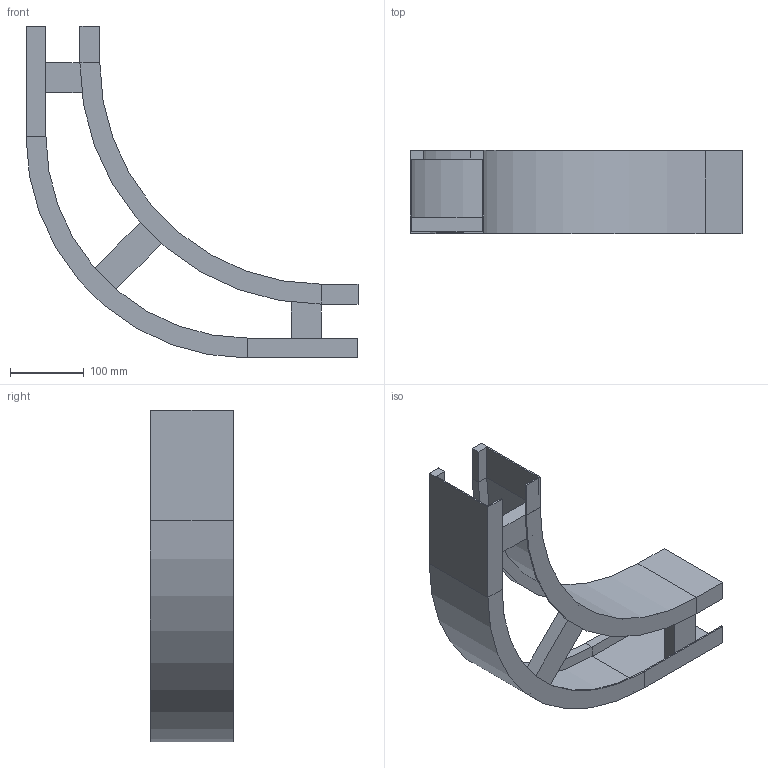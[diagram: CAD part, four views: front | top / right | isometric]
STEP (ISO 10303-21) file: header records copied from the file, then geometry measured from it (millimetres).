
FILE_DESCRIPTION (( 'STEP AP214' ), '1' );
FILE_NAME ('B2_10B3J100.step', '2025-02-21T15:25:02', ( '' ), ( '' ), 'SwSTEP 2.0', 'SolidWorks 2023', '' );
FILE_SCHEMA (( 'AUTOMOTIVE_DESIGN' ));
Length unit declared in the file: millimetre
Products named in the file (5): B2_LONGH.ESTERNO 90°_H112.5_R300+100; B2_LONGH.INTERNO 90°_H112.5_R300; TRAVERSINO_L136; TRAVERSINO_100; B2_10B3J100
Assembly tree (5 placements, depth 2):
  B2_10B3J100
    B2_LONGH.INTERNO 90°_H112.5_R300
    B2_LONGH.ESTERNO 90°_H112.5_R300+100
    TRAVERSINO_100  x2
    TRAVERSINO_L136
Bounding box: 450 x 112.5 x 450 mm (x, y, z)
Volume: 892617.1 mm3; surface area: 463926.6 mm2
Topology: 5 solids, 5 shells, 70 faces, 148 edges, 88 vertices
Faces by surface type: plane 62, cylinder 8
Entity records: 1822 total; most frequent: DIRECTION 296, CARTESIAN_POINT 288, ORIENTED_EDGE 272, EDGE_CURVE 136, LINE 120, VECTOR 120, AXIS2_PLACEMENT_3D 88, VERTEX_POINT 80
